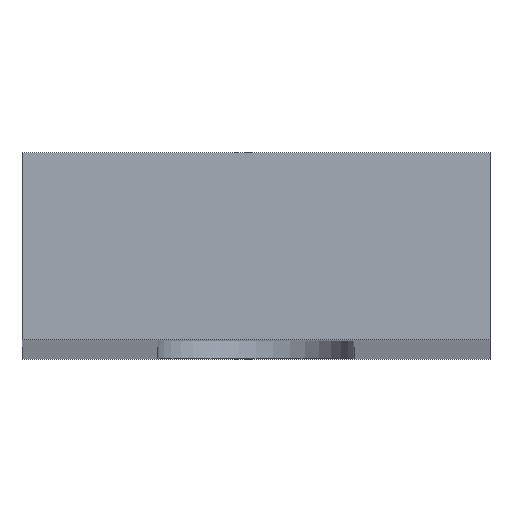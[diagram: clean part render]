
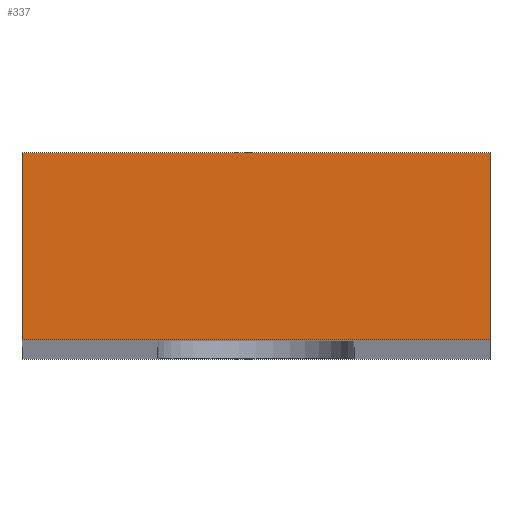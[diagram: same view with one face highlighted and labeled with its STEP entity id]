
A CAD part, top view. The second image highlights one B-rep face of the part: STEP entity #337.
In plain terms, the highlighted planar face has unit normal (0, 0, 1).
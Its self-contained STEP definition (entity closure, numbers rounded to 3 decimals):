
#24 = VERTEX_POINT('',#25);
#25 = CARTESIAN_POINT('',(-53.,-28.,120.));
#32 = PLANE('',#33);
#33 = AXIS2_PLACEMENT_3D('',#34,#35,#36);
#34 = CARTESIAN_POINT('',(-53.,-28.,-120.));
#35 = DIRECTION('',(-1.,-0.,0.));
#36 = DIRECTION('',(0.,0.,-1.));
#44 = PLANE('',#45);
#45 = AXIS2_PLACEMENT_3D('',#46,#47,#48);
#46 = CARTESIAN_POINT('',(-53.,-28.,-120.));
#47 = DIRECTION('',(-0.,1.,0.));
#48 = DIRECTION('',(0.,0.,-1.));
#85 = VERTEX_POINT('',#86);
#86 = CARTESIAN_POINT('',(-53.,-24.,120.));
#100 = PLANE('',#101);
#101 = AXIS2_PLACEMENT_3D('',#102,#103,#104);
#102 = CARTESIAN_POINT('',(-53.,-24.,-120.));
#103 = DIRECTION('',(-0.,1.,0.));
#104 = DIRECTION('',(0.,0.,-1.));
#112 = EDGE_CURVE('',#24,#85,#113,.T.);
#113 = SURFACE_CURVE('',#114,(#118,#125),.PCURVE_S1.);
#114 = LINE('',#115,#116);
#115 = CARTESIAN_POINT('',(-53.,-28.,120.));
#116 = VECTOR('',#117,1.);
#117 = DIRECTION('',(-0.,1.,0.));
#118 = PCURVE('',#32,#119);
#119 = DEFINITIONAL_REPRESENTATION('',(#120),#124);
#120 = LINE('',#121,#122);
#121 = CARTESIAN_POINT('',(-240.,-0.));
#122 = VECTOR('',#123,1.);
#123 = DIRECTION('',(-0.,-1.));
#124 = ( GEOMETRIC_REPRESENTATION_CONTEXT(2)
PARAMETRIC_REPRESENTATION_CONTEXT() REPRESENTATION_CONTEXT('2D SPACE',''
  ) );
#125 = PCURVE('',#126,#131);
#126 = PLANE('',#127);
#127 = AXIS2_PLACEMENT_3D('',#128,#129,#130);
#128 = CARTESIAN_POINT('',(-53.,-28.,120.));
#129 = DIRECTION('',(0.,0.,1.));
#130 = DIRECTION('',(1.,0.,0.));
#131 = DEFINITIONAL_REPRESENTATION('',(#132),#136);
#132 = LINE('',#133,#134);
#133 = CARTESIAN_POINT('',(0.,-0.));
#134 = VECTOR('',#135,1.);
#135 = DIRECTION('',(-0.,1.));
#136 = ( GEOMETRIC_REPRESENTATION_CONTEXT(2)
PARAMETRIC_REPRESENTATION_CONTEXT() REPRESENTATION_CONTEXT('2D SPACE',''
  ) );
#165 = EDGE_CURVE('',#24,#166,#168,.T.);
#166 = VERTEX_POINT('',#167);
#167 = CARTESIAN_POINT('',(-63.,-28.,120.));
#168 = SURFACE_CURVE('',#169,(#173,#180),.PCURVE_S1.);
#169 = LINE('',#170,#171);
#170 = CARTESIAN_POINT('',(-53.,-28.,120.));
#171 = VECTOR('',#172,1.);
#172 = DIRECTION('',(-1.,-0.,0.));
#173 = PCURVE('',#44,#174);
#174 = DEFINITIONAL_REPRESENTATION('',(#175),#179);
#175 = LINE('',#176,#177);
#176 = CARTESIAN_POINT('',(-240.,-0.));
#177 = VECTOR('',#178,1.);
#178 = DIRECTION('',(-0.,1.));
#179 = ( GEOMETRIC_REPRESENTATION_CONTEXT(2)
PARAMETRIC_REPRESENTATION_CONTEXT() REPRESENTATION_CONTEXT('2D SPACE',''
  ) );
#180 = PCURVE('',#126,#181);
#181 = DEFINITIONAL_REPRESENTATION('',(#182),#186);
#182 = LINE('',#183,#184);
#183 = CARTESIAN_POINT('',(0.,-0.));
#184 = VECTOR('',#185,1.);
#185 = DIRECTION('',(-1.,0.));
#186 = ( GEOMETRIC_REPRESENTATION_CONTEXT(2)
PARAMETRIC_REPRESENTATION_CONTEXT() REPRESENTATION_CONTEXT('2D SPACE',''
  ) );
#202 = PLANE('',#203);
#203 = AXIS2_PLACEMENT_3D('',#204,#205,#206);
#204 = CARTESIAN_POINT('',(-63.,-28.,-120.));
#205 = DIRECTION('',(-1.,-0.,0.));
#206 = DIRECTION('',(0.,0.,-1.));
#337 = ADVANCED_FACE('',(#338),#126,.T.);
#338 = FACE_BOUND('',#339,.F.);
#339 = EDGE_LOOP('',(#340,#341,#342,#365));
#340 = ORIENTED_EDGE('',*,*,#112,.F.);
#341 = ORIENTED_EDGE('',*,*,#165,.T.);
#342 = ORIENTED_EDGE('',*,*,#343,.T.);
#343 = EDGE_CURVE('',#166,#344,#346,.T.);
#344 = VERTEX_POINT('',#345);
#345 = CARTESIAN_POINT('',(-63.,-24.,120.));
#346 = SURFACE_CURVE('',#347,(#351,#358),.PCURVE_S1.);
#347 = LINE('',#348,#349);
#348 = CARTESIAN_POINT('',(-63.,-28.,120.));
#349 = VECTOR('',#350,1.);
#350 = DIRECTION('',(-0.,1.,0.));
#351 = PCURVE('',#126,#352);
#352 = DEFINITIONAL_REPRESENTATION('',(#353),#357);
#353 = LINE('',#354,#355);
#354 = CARTESIAN_POINT('',(-10.,0.));
#355 = VECTOR('',#356,1.);
#356 = DIRECTION('',(-0.,1.));
#357 = ( GEOMETRIC_REPRESENTATION_CONTEXT(2)
PARAMETRIC_REPRESENTATION_CONTEXT() REPRESENTATION_CONTEXT('2D SPACE',''
  ) );
#358 = PCURVE('',#202,#359);
#359 = DEFINITIONAL_REPRESENTATION('',(#360),#364);
#360 = LINE('',#361,#362);
#361 = CARTESIAN_POINT('',(-240.,-0.));
#362 = VECTOR('',#363,1.);
#363 = DIRECTION('',(-0.,-1.));
#364 = ( GEOMETRIC_REPRESENTATION_CONTEXT(2)
PARAMETRIC_REPRESENTATION_CONTEXT() REPRESENTATION_CONTEXT('2D SPACE',''
  ) );
#365 = ORIENTED_EDGE('',*,*,#366,.F.);
#366 = EDGE_CURVE('',#85,#344,#367,.T.);
#367 = SURFACE_CURVE('',#368,(#372,#379),.PCURVE_S1.);
#368 = LINE('',#369,#370);
#369 = CARTESIAN_POINT('',(-53.,-24.,120.));
#370 = VECTOR('',#371,1.);
#371 = DIRECTION('',(-1.,-0.,0.));
#372 = PCURVE('',#126,#373);
#373 = DEFINITIONAL_REPRESENTATION('',(#374),#378);
#374 = LINE('',#375,#376);
#375 = CARTESIAN_POINT('',(0.,4.));
#376 = VECTOR('',#377,1.);
#377 = DIRECTION('',(-1.,0.));
#378 = ( GEOMETRIC_REPRESENTATION_CONTEXT(2)
PARAMETRIC_REPRESENTATION_CONTEXT() REPRESENTATION_CONTEXT('2D SPACE',''
  ) );
#379 = PCURVE('',#100,#380);
#380 = DEFINITIONAL_REPRESENTATION('',(#381),#385);
#381 = LINE('',#382,#383);
#382 = CARTESIAN_POINT('',(-240.,-0.));
#383 = VECTOR('',#384,1.);
#384 = DIRECTION('',(-0.,1.));
#385 = ( GEOMETRIC_REPRESENTATION_CONTEXT(2)
PARAMETRIC_REPRESENTATION_CONTEXT() REPRESENTATION_CONTEXT('2D SPACE',''
  ) );
